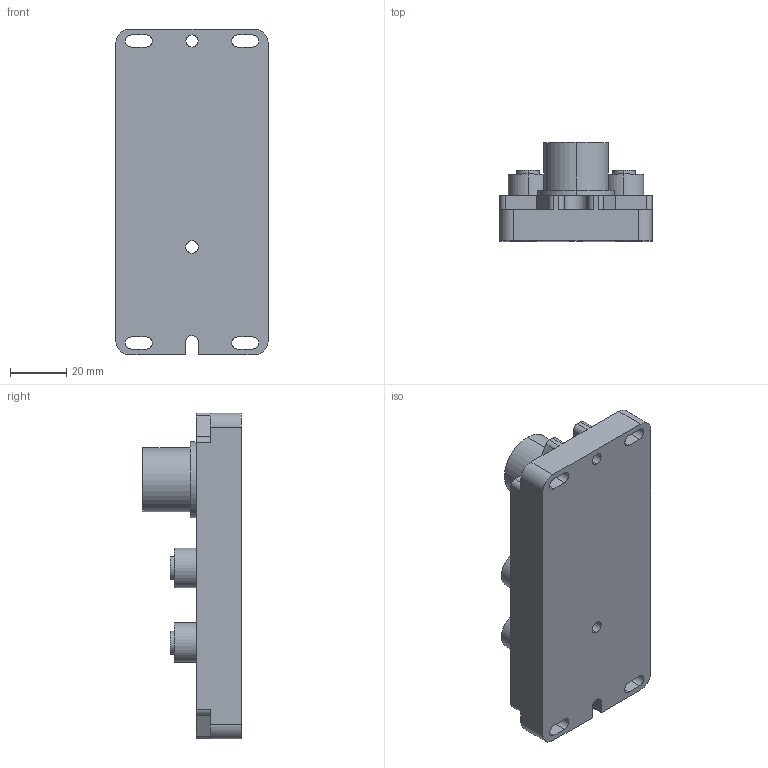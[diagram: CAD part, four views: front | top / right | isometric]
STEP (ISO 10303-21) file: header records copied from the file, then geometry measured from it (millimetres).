
FILE_DESCRIPTION (( 'STEP AP203' ), '1' );
FILE_NAME ('ZF_STEP_BC_1x4AxxxFTK.STEP', '2023-05-18T09:32:15', ( '' ), ( '' ), 'SwSTEP 2.0', 'SolidWorks 2020', '' );
FILE_SCHEMA (( 'CONFIG_CONTROL_DESIGN' ));
Length unit declared in the file: millimetre
Products named in the file (1): ZF_STEP_BC_1x4AxxxFTK
Bounding box: 54 x 34.9 x 115.4 mm (x, y, z)
Volume: 101772.4 mm3; surface area: 25524.8 mm2
Topology: 1 solids, 1 shells, 256 faces, 669 edges, 446 vertices
Faces by surface type: plane 154, cylinder 102
Entity records: 7998 total; most frequent: DIRECTION 1387, CARTESIAN_POINT 1372, ORIENTED_EDGE 1338, EDGE_CURVE 669, VECTOR 465, LINE 465, AXIS2_PLACEMENT_3D 461, VERTEX_POINT 446
